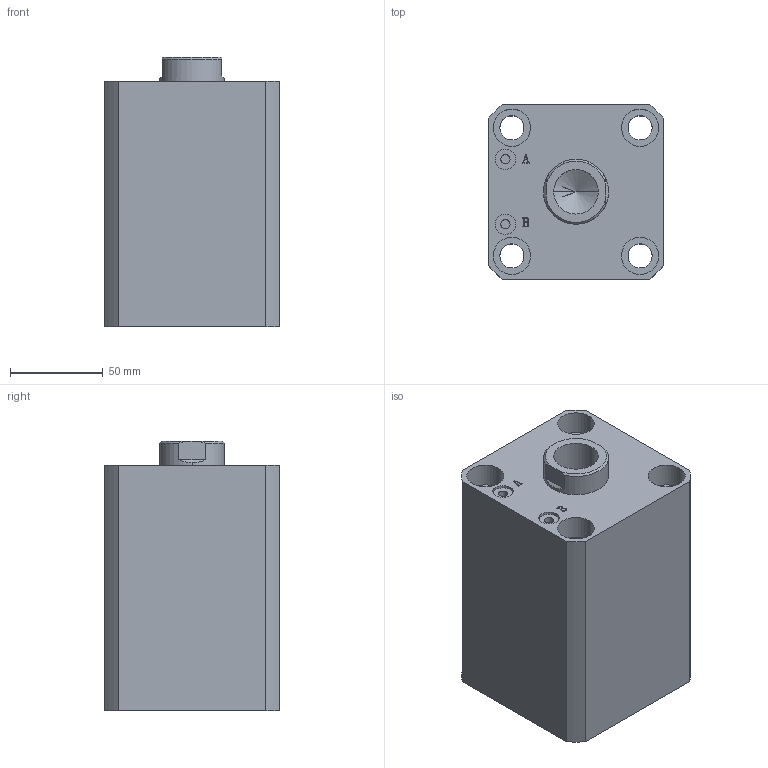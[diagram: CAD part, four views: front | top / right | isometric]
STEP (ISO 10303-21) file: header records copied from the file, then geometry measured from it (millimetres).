
FILE_DESCRIPTION (( 'STEP AP203' ), '1' );
FILE_NAME ('HTB-SDMA63-65N.STEP', '2019-10-08T01:11:00', ( '微软用户' ), ( '微软中国' ), 'SwSTEP 2.0', 'SolidWorks 2012', '' );
FILE_SCHEMA (( 'CONFIG_CONTROL_DESIGN' ));
Length unit declared in the file: millimetre
Products named in the file (3): HTB-SDMA63-65N; HTB-SDMA63-65N活塞杆; HTB-SDMA63-65掛极
Assembly tree (2 placements, depth 2):
  HTB-SDMA63-65N
    HTB-SDMA63-65掛极
    HTB-SDMA63-65N活塞杆
Bounding box: 94 x 94 x 145 mm (x, y, z)
Volume: 916740 mm3; surface area: 137383.8 mm2
Topology: 2 solids, 2 shells, 137 faces, 331 edges, 217 vertices
Faces by surface type: plane 65, cylinder 46, bspline 16, torus 6, cone 4
Entity records: 5070 total; most frequent: CARTESIAN_POINT 1576, ORIENTED_EDGE 658, DIRECTION 647, EDGE_CURVE 329, AXIS2_PLACEMENT_3D 232, VERTEX_POINT 217, VECTOR 183, LINE 183
